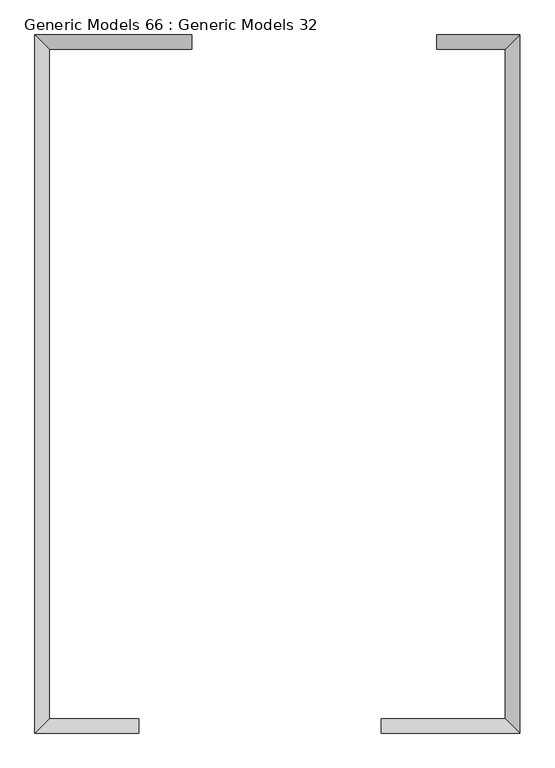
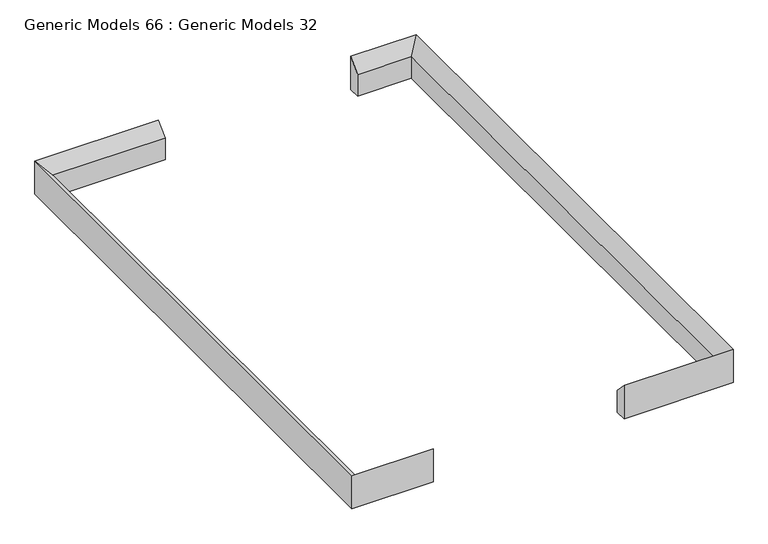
"""IFC4 building model written with IfcOpenShell, lengths in millimetres: proxy geometry, Generic Models 66 : Generic Models 32."""

from ifc_helpers import new_model, si_unit, origin, place, context, project, spatial, faceted_brep, source, transform, mapped, element, save


def generic_models_66_generic_models_32_00b28616(model_context):
    return source(origin(), model_context, "Body", "Brep", [
        faceted_brep([(-97877.9372768, 15357.4703267, 44170.0), (-97877.9372768, 15207.4703267, 44170.0), (-97877.9372768, 15207.4703267, 44630.0), (-97877.9372768, 15357.4703267, 44470.0), (-96597.9372768, 15357.4703267, 44170.0), (-96597.9372768, 15357.4703267, 44470.0), (-96597.9372768, 22257.4703267, 44470.0), (-96597.9372768, 22257.4703267, 44170.0), (-96447.9372768, 15207.4703267, 44630.0), (-96447.9372768, 22407.4703267, 44630.0), (-96447.9372768, 15207.4703267, 44170.0), (-96447.9372768, 22407.4703267, 44170.0), (-97302.6996211, 22257.4703267, 44170.0), (-97302.6996211, 22257.4703267, 44470.0), (-97302.6996211, 22407.4703267, 44630.0), (-97302.6996211, 22407.4703267, 44170.0)], [[[0, 1, 2, 3]], [[4, 5, 6, 7]], [[5, 8, 9, 6]], [[8, 10, 11, 9]], [[12, 13, 14, 15]], [[7, 6, 13, 12]], [[6, 9, 14, 13]], [[9, 11, 15, 14]], [[0, 3, 5, 4]], [[3, 2, 8, 5]], [[2, 1, 10, 8]], [[1, 0, 4, 7, 12, 15, 11, 10]]]),
        faceted_brep([(-101297.9372768, 15357.4703267, 44470.0), (-101297.9372768, 15357.4703267, 44170.0), (-101297.9372768, 22257.4703267, 44170.0), (-101297.9372768, 22257.4703267, 44470.0), (-101447.9372768, 15207.4703267, 44630.0), (-101447.9372768, 22407.4703267, 44630.0), (-101447.9372768, 15207.4703267, 44170.0), (-101447.9372768, 22407.4703267, 44170.0), (-99827.9372768, 22257.4703267, 44170.0), (-99827.9372768, 22257.4703267, 44470.0), (-99827.9372768, 22407.4703267, 44630.0), (-99827.9372768, 22407.4703267, 44170.0), (-100377.9372768, 15357.4703267, 44170.0), (-100377.9372768, 15357.4703267, 44470.0), (-100377.9372768, 15207.4703267, 44630.0), (-100377.9372768, 15207.4703267, 44170.0)], [[[0, 1, 2, 3]], [[4, 0, 3, 5]], [[6, 4, 5, 7]], [[3, 2, 8, 9]], [[5, 3, 9, 10]], [[7, 5, 10, 11]], [[12, 13, 14, 15]], [[8, 11, 10, 9]], [[13, 12, 1, 0]], [[14, 13, 0, 4]], [[15, 14, 4, 6]], [[12, 15, 6, 7, 11, 8, 2, 1]]]),
    ])


if __name__ == "__main__":
    model = new_model("IFC4")
    model_context = context("Model", 3, world=origin())
    ifc_project = project(units=[si_unit("LENGTHUNIT", "METRE", prefix="MILLI")], contexts=[model_context])
    site = spatial("IfcSite", under=ifc_project)
    building = spatial("IfcBuilding", under=site)
    placement = place(None, origin())
    generic_models_66_generic_models_32_shape = generic_models_66_generic_models_32_00b28616(model_context)
    element("IfcBuildingElementProxy", 1, Name="Generic Models 66 : Generic Models 32", ObjectType="Generic Models 66 : Generic Models 32", at=placement, inside=building, context=model_context, shape_type="MappedRepresentation", body=[
        mapped(generic_models_66_generic_models_32_shape, transform((0.0, 0.0, 0.0), x_axis=(1.0, 0.0, 0.0), y_axis=(0.0, 1.0, 0.0), z_axis=(0.0, 0.0, 1.0))),
    ])
    save(model, "model.ifc")
